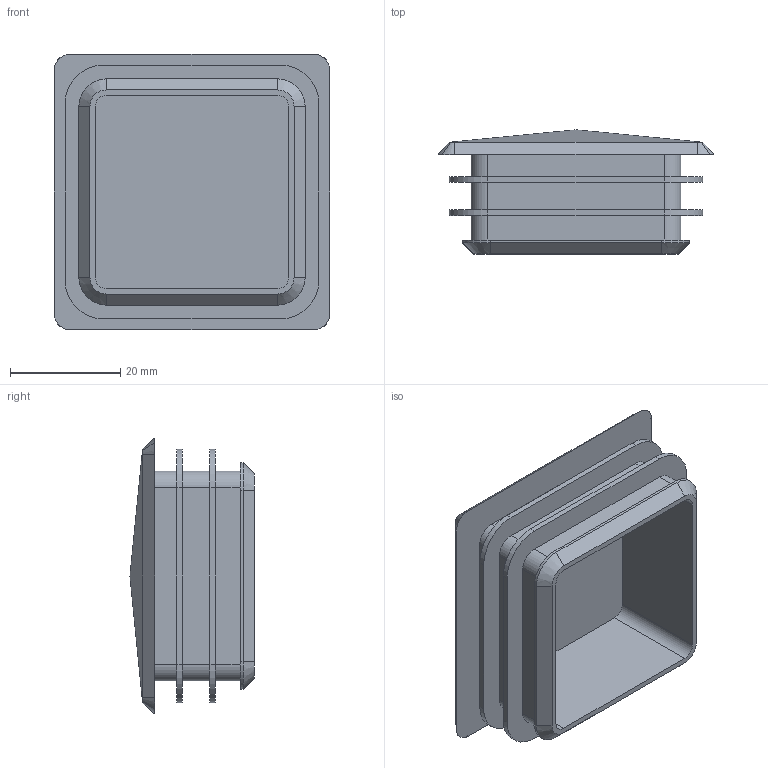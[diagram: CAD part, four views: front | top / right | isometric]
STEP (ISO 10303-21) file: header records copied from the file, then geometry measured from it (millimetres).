
FILE_DESCRIPTION(/* description */ (''),/* implementation_level */ '2;1');
FILE_NAME(/* name */ '\\Nas\db20\PR4-5050-H\DR_PR4-5050-H.stp',/* time_stamp */ '2021-01-29T17:54:21+09:00',/* author */ ('user'),/* organization */ (''),/* preprocessor_version */ 'ST-DEVELOPER v15.6',/* originating_system */ 'Autodesk Inventor 2015',/* authorisation */ '');
FILE_SCHEMA (('AUTOMOTIVE_DESIGN { 1 0 10303 214 3 1 1 }'));
Length unit declared in the file: millimetre
Products named in the file (1): DR_PR4-5050-H
Bounding box: 50 x 22.5 x 50 mm (x, y, z)
Volume: 12083.8 mm3; surface area: 13162.5 mm2
Topology: 1 solids, 1 shells, 92 faces, 228 edges, 145 vertices
Faces by surface type: plane 48, cylinder 32, bspline 8, cone 4
Entity records: 2856 total; most frequent: CARTESIAN_POINT 654, ORIENTED_EDGE 456, DIRECTION 442, EDGE_CURVE 228, AXIS2_PLACEMENT_3D 149, VERTEX_POINT 145, LINE 144, VECTOR 144
